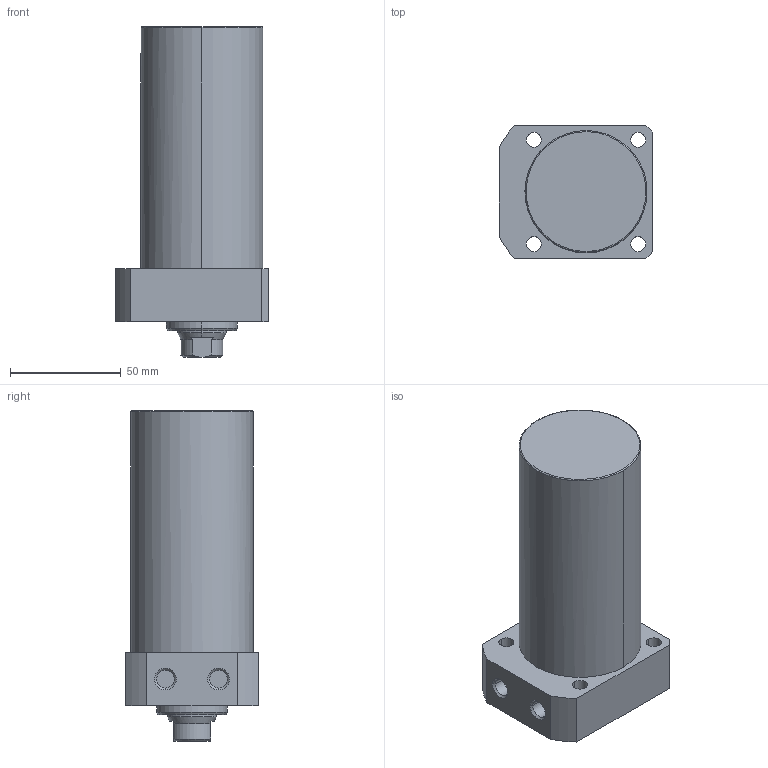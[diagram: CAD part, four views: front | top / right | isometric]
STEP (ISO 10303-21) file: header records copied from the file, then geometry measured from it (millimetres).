
FILE_DESCRIPTION((' '),'2;1');
FILE_NAME( 'TLLR-055CA-080.STEP.stp', '2025-10-24T16:34:41', (' '), ('--- Datakit www.datakit.com---'), ' Datakit CrossCadWare V2024.1 Dec 21 2023', 'Mastercam 2025', ' ');
FILE_SCHEMA(('AUTOMOTIVE_DESIGN { 1 0 10303 214 1 1 1 1 }'));
Length unit declared in the file: millimetre
Products named in the file (1): TLLR-055CA-080
Bounding box: 69 x 60 x 149 mm (x, y, z)
Volume: 356592.9 mm3; surface area: 37120.8 mm2
Topology: 1 solids, 1 shells, 63 faces, 177 edges, 122 vertices
Faces by surface type: cylinder 28, plane 19, cone 14, torus 2
Entity records: 2164 total; most frequent: CARTESIAN_POINT 401, DIRECTION 400, ORIENTED_EDGE 350, EDGE_CURVE 175, AXIS2_PLACEMENT_3D 169, VERTEX_POINT 122, CIRCLE 105, EDGE_LOOP 79
